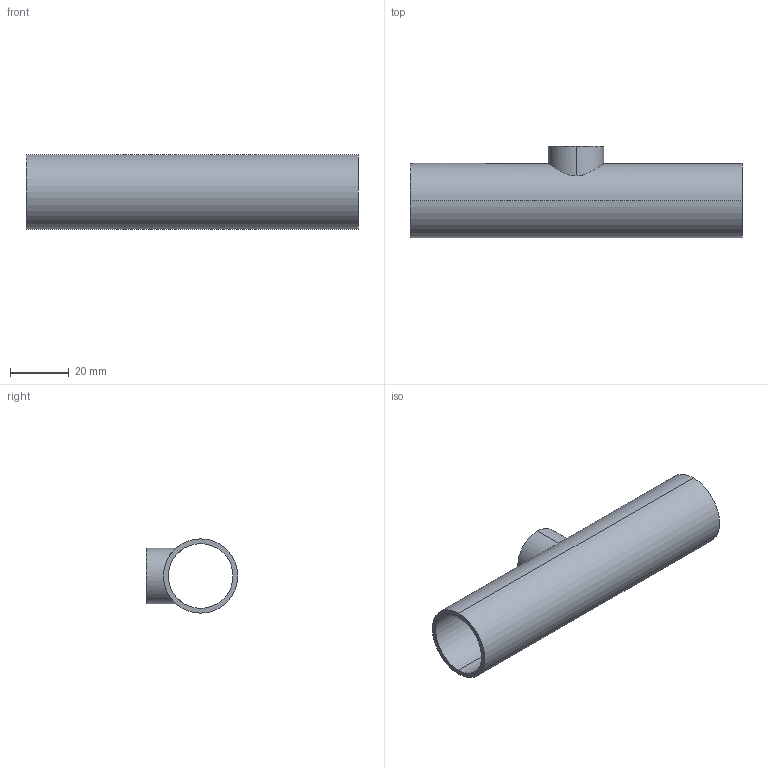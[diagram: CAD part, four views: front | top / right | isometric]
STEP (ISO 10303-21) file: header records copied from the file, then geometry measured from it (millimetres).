
FILE_DESCRIPTION (( 'STEP AP214' ), '1' );
FILE_NAME ('TEG7RS6L1.0x.75-...STEP', '2016-05-24T08:12:07', ( 'eran' ), ( '' ), 'SwSTEP 2.0', 'SolidWorks 2016', '' );
FILE_SCHEMA (( 'AUTOMOTIVE_DESIGN' ));
Length unit declared in the file: millimetre
Products named in the file (1): TEG7RS6L1.0x.75-..
Bounding box: 113.4 x 31.3 x 25.4 mm (x, y, z)
Volume: 14301 mm3; surface area: 17663.7 mm2
Topology: 1 solids, 1 shells, 11 faces, 24 edges, 16 vertices
Faces by surface type: cylinder 8, plane 3
Entity records: 532 total; most frequent: CARTESIAN_POINT 240, DIRECTION 56, ORIENTED_EDGE 48, AXIS2_PLACEMENT_3D 24, EDGE_CURVE 24, EDGE_LOOP 16, VERTEX_POINT 16, CIRCLE 12
